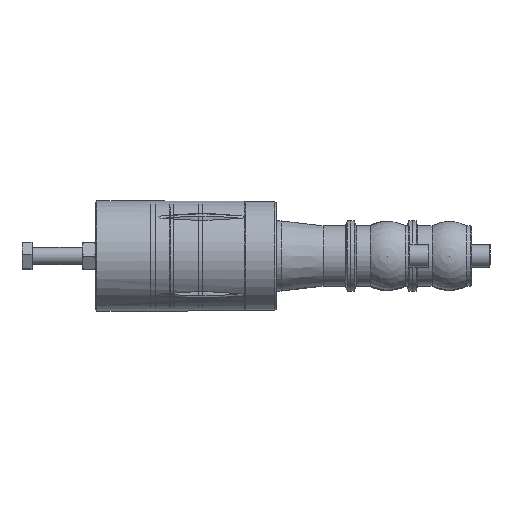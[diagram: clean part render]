
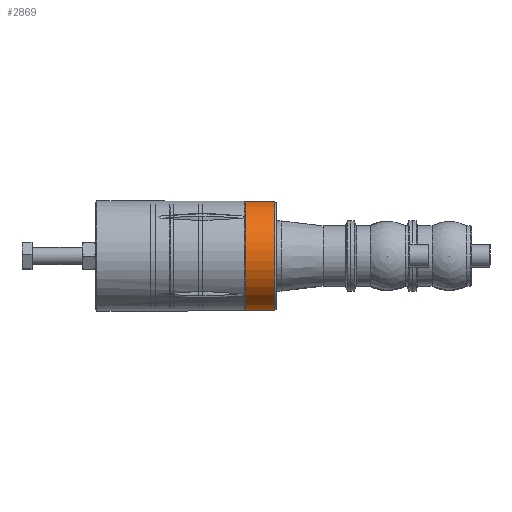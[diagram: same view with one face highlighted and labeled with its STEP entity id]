
A CAD part, left-side view. The second image highlights one B-rep face of the part: STEP entity #2869.
In plain terms, the highlighted cylindrical face has radius 44.25 mm (diameter 88.5 mm), a full revolution.
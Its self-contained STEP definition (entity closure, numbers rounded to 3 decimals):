
#2732=CARTESIAN_POINT('',(-31.289,168.5,31.289));
#2733=VERTEX_POINT('',#2732);
#2734=CARTESIAN_POINT('',(0.,168.5,0.));
#2735=DIRECTION('',(0.,-1.,0.));
#2736=DIRECTION('',(-0.707,0.,0.707));
#2737=AXIS2_PLACEMENT_3D('',#2734,#2735,#2736);
#2738=CIRCLE('',#2737,44.25);
#2739=EDGE_CURVE('',#2733,#2733,#2738,.T.);
#2768=CARTESIAN_POINT('',(-31.289,192.5,31.289));
#2769=VERTEX_POINT('',#2768);
#2770=CARTESIAN_POINT('',(0.,192.5,0.));
#2771=DIRECTION('',(0.,-1.,0.));
#2772=DIRECTION('',(-0.707,0.,0.707));
#2773=AXIS2_PLACEMENT_3D('',#2770,#2771,#2772);
#2774=CIRCLE('',#2773,44.25);
#2775=EDGE_CURVE('',#2769,#2769,#2774,.T.);
#2780=CARTESIAN_POINT('',(0.,180.5,0.));
#2781=DIRECTION('',(0.,-1.0,0.));
#2782=DIRECTION('',(-0.707,0.,0.707));
#2783=AXIS2_PLACEMENT_3D('',#2780,#2781,#2782);
#2784=CYLINDRICAL_SURFACE('',#2783,44.25);
#2785=ORIENTED_EDGE('',*,*,#2739,.F.);
#2786=EDGE_LOOP('',(#2785));
#2787=FACE_OUTER_BOUND('',#2786,.T.);
#2788=CARTESIAN_POINT('',(44.042,180.,4.283));
#2789=VERTEX_POINT('',#2788);
#2790=CARTESIAN_POINT('',(44.25,184.283,0.));
#2791=VERTEX_POINT('',#2790);
#2792=CARTESIAN_POINT('',(44.042,180.,4.283));
#2793=CARTESIAN_POINT('',(44.042,180.538,4.283));
#2794=CARTESIAN_POINT('',(44.053,181.112,4.175));
#2795=CARTESIAN_POINT('',(44.092,182.167,3.738));
#2796=CARTESIAN_POINT('',(44.12,182.648,3.409));
#2797=CARTESIAN_POINT('',(44.172,183.409,2.648));
#2798=CARTESIAN_POINT('',(44.2,183.738,2.167));
#2799=CARTESIAN_POINT('',(44.239,184.175,1.112));
#2800=CARTESIAN_POINT('',(44.25,184.283,0.538));
#2801=CARTESIAN_POINT('',(44.25,184.283,0.));
#2802=B_SPLINE_CURVE_WITH_KNOTS('',3,(#2792,#2793,#2794,#2795,#2796,#2797,#2798,#2799,#2800,#2801),.UNSPECIFIED.,.F.,.U.,(4,2,2,2,4),(0.0,0.161,0.323,0.484,0.646),.UNSPECIFIED.);
#2803=EDGE_CURVE('',#2789,#2791,#2802,.T.);
#2804=ORIENTED_EDGE('',*,*,#2803,.T.);
#2805=CARTESIAN_POINT('',(44.25,186.461,0.));
#2806=VERTEX_POINT('',#2805);
#2807=CARTESIAN_POINT('',(44.25,186.461,0.));
#2808=DIRECTION('',(0.0,-1.0,0.0));
#2809=VECTOR('',#2808,2.178);
#2810=LINE('',#2807,#2809);
#2811=EDGE_CURVE('',#2806,#2791,#2810,.T.);
#2812=ORIENTED_EDGE('',*,*,#2811,.F.);
#2813=ORIENTED_EDGE('',*,*,#2811,.T.);
#2814=CARTESIAN_POINT('',(44.25,175.717,0.));
#2815=VERTEX_POINT('',#2814);
#2816=CARTESIAN_POINT('',(44.25,184.283,0.));
#2817=CARTESIAN_POINT('',(44.25,184.283,-0.538));
#2818=CARTESIAN_POINT('',(44.239,184.175,-1.112));
#2819=CARTESIAN_POINT('',(44.2,183.738,-2.167));
#2820=CARTESIAN_POINT('',(44.172,183.409,-2.648));
#2821=CARTESIAN_POINT('',(44.12,182.648,-3.409));
#2822=CARTESIAN_POINT('',(44.092,182.167,-3.738));
#2823=CARTESIAN_POINT('',(44.053,181.112,-4.175));
#2824=CARTESIAN_POINT('',(44.042,180.538,-4.283));
#2825=CARTESIAN_POINT('',(44.042,179.462,-4.283));
#2826=CARTESIAN_POINT('',(44.053,178.888,-4.175));
#2827=CARTESIAN_POINT('',(44.092,177.833,-3.738));
#2828=CARTESIAN_POINT('',(44.12,177.352,-3.409));
#2829=CARTESIAN_POINT('',(44.172,176.591,-2.648));
#2830=CARTESIAN_POINT('',(44.2,176.262,-2.167));
#2831=CARTESIAN_POINT('',(44.239,175.825,-1.112));
#2832=CARTESIAN_POINT('',(44.25,175.717,-0.538));
#2833=CARTESIAN_POINT('',(44.25,175.717,0.));
#2834=B_SPLINE_CURVE_WITH_KNOTS('',3,(#2816,#2817,#2818,#2819,#2820,#2821,#2822,#2823,#2824,#2825,#2826,#2827,#2828,#2829,#2830,#2831,#2832,#2833),.UNSPECIFIED.,.F.,.U.,(4,2,2,2,2,2,2,2,4),(0.646,0.807,0.969,1.13,1.292,1.453,1.614,1.776,1.937),.UNSPECIFIED.);
#2835=EDGE_CURVE('',#2791,#2815,#2834,.T.);
#2836=ORIENTED_EDGE('',*,*,#2835,.T.);
#2837=CARTESIAN_POINT('',(44.25,173.539,0.));
#2838=VERTEX_POINT('',#2837);
#2839=CARTESIAN_POINT('',(44.25,175.717,0.));
#2840=DIRECTION('',(0.0,-1.0,0.0));
#2841=VECTOR('',#2840,2.178);
#2842=LINE('',#2839,#2841);
#2843=EDGE_CURVE('',#2815,#2838,#2842,.T.);
#2844=ORIENTED_EDGE('',*,*,#2843,.T.);
#2845=CARTESIAN_POINT('',(44.25,175.717,0.));
#2846=DIRECTION('',(0.0,-1.0,0.0));
#2847=VECTOR('',#2846,2.178);
#2848=LINE('',#2845,#2847);
#2849=EDGE_CURVE('',#2815,#2838,#2848,.T.);
#2850=ORIENTED_EDGE('',*,*,#2849,.F.);
#2851=CARTESIAN_POINT('',(44.25,175.717,0.));
#2852=CARTESIAN_POINT('',(44.25,175.717,0.538));
#2853=CARTESIAN_POINT('',(44.239,175.825,1.112));
#2854=CARTESIAN_POINT('',(44.2,176.262,2.167));
#2855=CARTESIAN_POINT('',(44.172,176.591,2.648));
#2856=CARTESIAN_POINT('',(44.12,177.352,3.409));
#2857=CARTESIAN_POINT('',(44.092,177.833,3.738));
#2858=CARTESIAN_POINT('',(44.053,178.888,4.175));
#2859=CARTESIAN_POINT('',(44.042,179.462,4.283));
#2860=CARTESIAN_POINT('',(44.042,180.,4.283));
#2861=B_SPLINE_CURVE_WITH_KNOTS('',3,(#2851,#2852,#2853,#2854,#2855,#2856,#2857,#2858,#2859,#2860),.UNSPECIFIED.,.F.,.U.,(4,2,2,2,4),(1.937,2.099,2.26,2.422,2.583),.UNSPECIFIED.);
#2862=EDGE_CURVE('',#2815,#2789,#2861,.T.);
#2863=ORIENTED_EDGE('',*,*,#2862,.T.);
#2864=EDGE_LOOP('',(#2804,#2812,#2813,#2836,#2844,#2850,#2863));
#2865=FACE_BOUND('',#2864,.T.);
#2866=ORIENTED_EDGE('',*,*,#2775,.T.);
#2867=EDGE_LOOP('',(#2866));
#2868=FACE_BOUND('',#2867,.T.);
#2869=ADVANCED_FACE('',(#2787,#2865,#2868),#2784,.T.);
